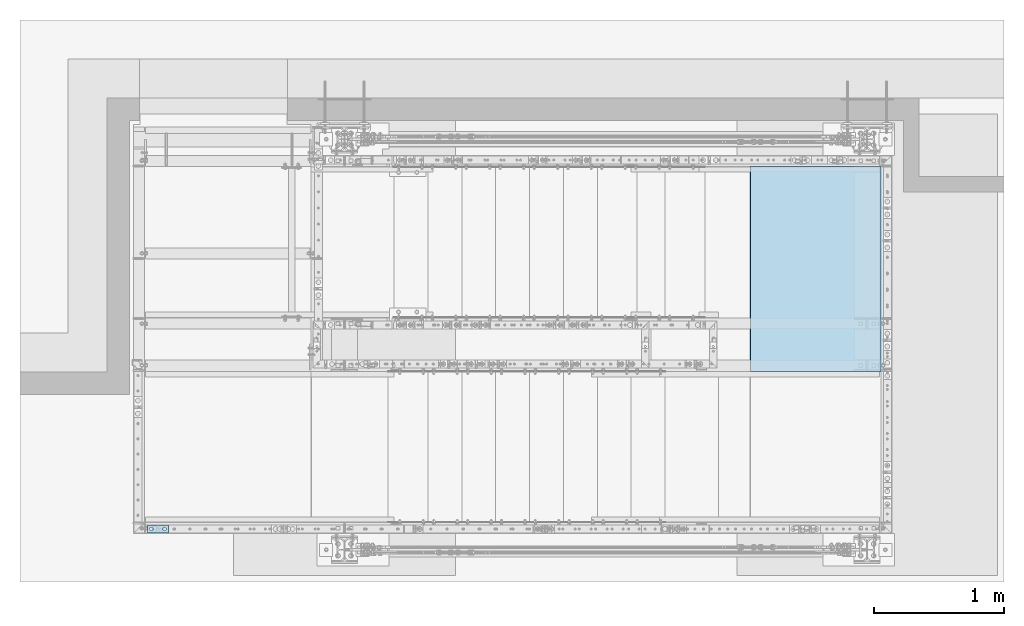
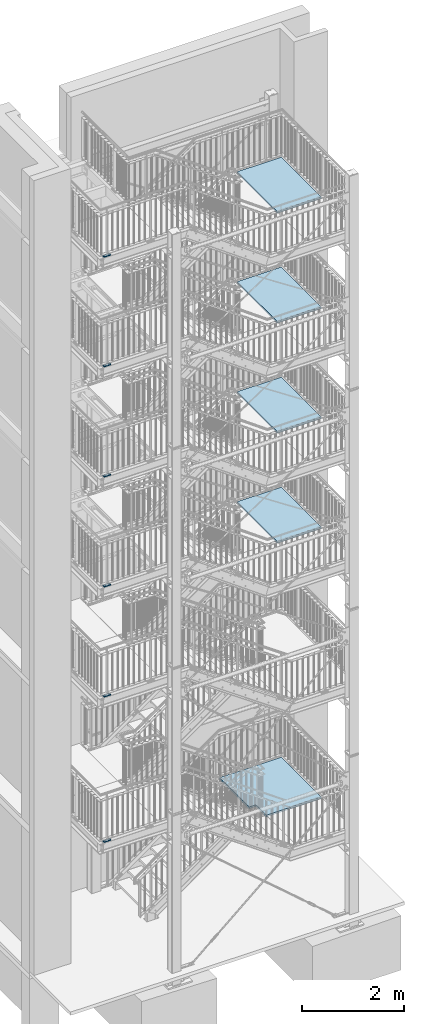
# One storey, part 144 of 821: 11 plates, 13 openings.
"""IFC2X3 building model written with IfcOpenShell, lengths in millimetres."""

from ifc_helpers import new_model, entity, si_unit, converted_unit, point, frame, frame_2d, origin, origin_with_axes, place, context, project, spatial, polyline, circle_curve, line_curve, trimmed, segment, composite_curve, outline, extrude, material, layer, layer_set, element, save


model = new_model("IFC2X3")

# Units and contexts
model_context = context("Model", 3, precision=1e-09, world=origin_with_axes())
ifc_project = project(units=[si_unit("LENGTHUNIT", "METRE", prefix="MILLI"), si_unit("AREAUNIT", "SQUARE_METRE"), si_unit("VOLUMEUNIT", "CUBIC_METRE"), converted_unit("PLANEANGLEUNIT", "DEGREE", entity("IfcPlaneAngleMeasure", 0.01745329), si_unit("PLANEANGLEUNIT", "RADIAN"), dimensions=[0, 0, 0, 0, 0, 0, 0])], contexts=[model_context])

# Site, building, storey
site_placement = place(None, origin_with_axes())
site = spatial("IfcSite", under=ifc_project, at=site_placement, Name="Cnopf'sche Kinderklinik", CompositionType="ELEMENT")
building_placement = place(site_placement, origin_with_axes())
building = spatial("IfcBuilding", under=site, at=building_placement, Name="Struktur 1", CompositionType="ELEMENT")
storey_placement = place(building_placement, origin_with_axes())
storey = spatial("IfcBuildingStorey", under=building, at=storey_placement, Name="Default Storey", CompositionType="ELEMENT", Elevation=0.0)

# Plate, openings
ifc_material = material(Name="S235JR")
ifc_layer_1 = layer(ifc_material, 20.0)
ifc_layer_set_1 = layer_set([ifc_layer_1], Name="S235JR")
plate_1_placement = place(None, frame((3344.788520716, 4496.736971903, 3847.0), z_axis=(0.0, 0.0, 1.0), x_axis=(1.0, 0.0, 0.0)))
plate_1 = element("IfcPlate", 1, at=plate_1_placement, inside=storey, material=ifc_layer_set_1, Name="Plate#512", ObjectType="Plate#512", context=model_context, shape_type="SweptSolid", body=[
    extrude(outline(polyline([(0.0, 0.0), (160.0, 0.0), (160.0, 60.0), (0.0, 60.0), (0.0, 0.0)])), origin_with_axes(), (0.0, 0.0, 1.0), 20.0),
])
opening_1_placement = place(plate_1_placement, frame((38.0, 37.001, 20.5), z_axis=(0.0, 0.0, 1.0), x_axis=(-1.0, 0.0, 0.0)))
element("IfcOpeningElement", 2, at=opening_1_placement, cuts=plate_1, ObjectType="Opening", context=model_context, shape_type="SweptSolid", body=[
    extrude(outline(composite_curve([segment(trimmed(line_curve((0.0, 0.0), (1.0, 0.0), 16.0), [point((0.0, 0.0))], [point((16.0, 0.0))], True, "CARTESIAN"), True, "CONTINUOUS"), segment(trimmed(circle_curve(frame_2d((16.0, 7.001), x_axis=(1.0, 0.0)), 7.001), [point((16.0, 0.0))], [point((16.0, 14.002))], True, "CARTESIAN"), True, "CONTINUOUS"), segment(trimmed(line_curve((16.0, 14.002), (-1.0, 0.0), 16.0), [point((16.0, 14.002))], [point((0.0, 14.002))], True, "CARTESIAN"), True, "CONTINUOUS"), segment(trimmed(circle_curve(frame_2d((0.0, 7.001), x_axis=(1.0, 0.0)), 7.001), [point((0.0, 14.002))], [point((0.0, 0.0))], True, "CARTESIAN"), True, "CONTINUOUS")], self_intersect=False)), origin(), (0.0, 0.0, -1.0), 21.0),
])
opening_2_placement = place(plate_1_placement, frame((138.0, 37.001, 20.5), z_axis=(0.0, 0.0, 1.0), x_axis=(-1.0, 0.0, 0.0)))
element("IfcOpeningElement", 3, at=opening_2_placement, cuts=plate_1, ObjectType="Opening", context=model_context, shape_type="SweptSolid", body=[
    extrude(outline(composite_curve([segment(trimmed(line_curve((0.0, 0.0), (1.0, 0.0), 16.0), [point((0.0, 0.0))], [point((16.0, 0.0))], True, "CARTESIAN"), True, "CONTINUOUS"), segment(trimmed(circle_curve(frame_2d((16.0, 7.001), x_axis=(1.0, 0.0)), 7.001), [point((16.0, 0.0))], [point((16.0, 14.002))], True, "CARTESIAN"), True, "CONTINUOUS"), segment(trimmed(line_curve((16.0, 14.002), (-1.0, 0.0), 16.0), [point((16.0, 14.002))], [point((0.0, 14.002))], True, "CARTESIAN"), True, "CONTINUOUS"), segment(trimmed(circle_curve(frame_2d((0.0, 7.001), x_axis=(1.0, 0.0)), 7.001), [point((0.0, 14.002))], [point((0.0, 0.0))], True, "CARTESIAN"), True, "CONTINUOUS")], self_intersect=False)), origin(), (0.0, 0.0, -1.0), 21.0),
])

plate_2_placement = place(None, frame((3344.79154585, 4496.736971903, 7320.0), z_axis=(0.0, 0.0, 1.0), x_axis=(1.0, 0.0, 0.0)))
plate_2 = element("IfcPlate", 4, at=plate_2_placement, inside=storey, material=ifc_layer_set_1, Name="Plate#513", ObjectType="Plate#513", context=model_context, shape_type="SweptSolid", body=[
    extrude(outline(polyline([(0.0, 0.0), (160.0, 0.0), (160.0, 60.0), (0.0, 60.0), (0.0, 0.0)])), origin_with_axes(), (0.0, 0.0, 1.0), 20.0),
])
opening_3_placement = place(plate_2_placement, frame((38.0, 37.001, 20.5), z_axis=(0.0, 0.0, 1.0), x_axis=(-1.0, 0.0, 0.0)))
element("IfcOpeningElement", 5, at=opening_3_placement, cuts=plate_2, ObjectType="Opening", context=model_context, shape_type="SweptSolid", body=[
    extrude(outline(composite_curve([segment(trimmed(line_curve((0.0, 0.0), (1.0, 0.0), 16.0), [point((0.0, 0.0))], [point((16.0, 0.0))], True, "CARTESIAN"), True, "CONTINUOUS"), segment(trimmed(circle_curve(frame_2d((16.0, 7.001), x_axis=(1.0, 0.0)), 7.001), [point((16.0, 0.0))], [point((16.0, 14.002))], True, "CARTESIAN"), True, "CONTINUOUS"), segment(trimmed(line_curve((16.0, 14.002), (-1.0, 0.0), 16.0), [point((16.0, 14.002))], [point((0.0, 14.002))], True, "CARTESIAN"), True, "CONTINUOUS"), segment(trimmed(circle_curve(frame_2d((0.0, 7.001), x_axis=(1.0, 0.0)), 7.001), [point((0.0, 14.002))], [point((0.0, 0.0))], True, "CARTESIAN"), True, "CONTINUOUS")], self_intersect=False)), origin(), (0.0, 0.0, -1.0), 21.0),
])
opening_4_placement = place(plate_2_placement, frame((138.0, 37.001, 20.5), z_axis=(0.0, 0.0, 1.0), x_axis=(-1.0, 0.0, 0.0)))
element("IfcOpeningElement", 6, at=opening_4_placement, cuts=plate_2, ObjectType="Opening", context=model_context, shape_type="SweptSolid", body=[
    extrude(outline(composite_curve([segment(trimmed(line_curve((0.0, 0.0), (1.0, 0.0), 16.0), [point((0.0, 0.0))], [point((16.0, 0.0))], True, "CARTESIAN"), True, "CONTINUOUS"), segment(trimmed(circle_curve(frame_2d((16.0, 7.001), x_axis=(1.0, 0.0)), 7.001), [point((16.0, 0.0))], [point((16.0, 14.002))], True, "CARTESIAN"), True, "CONTINUOUS"), segment(trimmed(line_curve((16.0, 14.002), (-1.0, 0.0), 16.0), [point((16.0, 14.002))], [point((0.0, 14.002))], True, "CARTESIAN"), True, "CONTINUOUS"), segment(trimmed(circle_curve(frame_2d((0.0, 7.001), x_axis=(1.0, 0.0)), 7.001), [point((0.0, 14.002))], [point((0.0, 0.0))], True, "CARTESIAN"), True, "CONTINUOUS")], self_intersect=False)), origin(), (0.0, 0.0, -1.0), 21.0),
])

plate_3_placement = place(None, frame((3344.79154585, 4496.736971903, 9952.0), z_axis=(0.0, 0.0, 1.0), x_axis=(1.0, 0.0, 0.0)))
plate_3 = element("IfcPlate", 7, at=plate_3_placement, inside=storey, material=ifc_layer_set_1, Name="Plate#513", ObjectType="Plate#513", context=model_context, shape_type="SweptSolid", body=[
    extrude(outline(polyline([(0.0, 0.0), (160.0, 0.0), (160.0, 60.0), (0.0, 60.0), (0.0, 0.0)])), origin_with_axes(), (0.0, 0.0, 1.0), 20.0),
])
opening_5_placement = place(plate_3_placement, frame((38.0, 37.001, 20.5), z_axis=(0.0, 0.0, 1.0), x_axis=(-1.0, 0.0, 0.0)))
element("IfcOpeningElement", 8, at=opening_5_placement, cuts=plate_3, ObjectType="Opening", context=model_context, shape_type="SweptSolid", body=[
    extrude(outline(composite_curve([segment(trimmed(line_curve((0.0, 0.0), (1.0, 0.0), 16.0), [point((0.0, 0.0))], [point((16.0, 0.0))], True, "CARTESIAN"), True, "CONTINUOUS"), segment(trimmed(circle_curve(frame_2d((16.0, 7.001), x_axis=(1.0, 0.0)), 7.001), [point((16.0, 0.0))], [point((16.0, 14.002))], True, "CARTESIAN"), True, "CONTINUOUS"), segment(trimmed(line_curve((16.0, 14.002), (-1.0, 0.0), 16.0), [point((16.0, 14.002))], [point((0.0, 14.002))], True, "CARTESIAN"), True, "CONTINUOUS"), segment(trimmed(circle_curve(frame_2d((0.0, 7.001), x_axis=(1.0, 0.0)), 7.001), [point((0.0, 14.002))], [point((0.0, 0.0))], True, "CARTESIAN"), True, "CONTINUOUS")], self_intersect=False)), origin(), (0.0, 0.0, -1.0), 21.0),
])
opening_6_placement = place(plate_3_placement, frame((138.0, 37.001, 20.5), z_axis=(0.0, 0.0, 1.0), x_axis=(-1.0, 0.0, 0.0)))
element("IfcOpeningElement", 9, at=opening_6_placement, cuts=plate_3, ObjectType="Opening", context=model_context, shape_type="SweptSolid", body=[
    extrude(outline(composite_curve([segment(trimmed(line_curve((0.0, 0.0), (1.0, 0.0), 16.0), [point((0.0, 0.0))], [point((16.0, 0.0))], True, "CARTESIAN"), True, "CONTINUOUS"), segment(trimmed(circle_curve(frame_2d((16.0, 7.001), x_axis=(1.0, 0.0)), 7.001), [point((16.0, 0.0))], [point((16.0, 14.002))], True, "CARTESIAN"), True, "CONTINUOUS"), segment(trimmed(line_curve((16.0, 14.002), (-1.0, 0.0), 16.0), [point((16.0, 14.002))], [point((0.0, 14.002))], True, "CARTESIAN"), True, "CONTINUOUS"), segment(trimmed(circle_curve(frame_2d((0.0, 7.001), x_axis=(1.0, 0.0)), 7.001), [point((0.0, 14.002))], [point((0.0, 0.0))], True, "CARTESIAN"), True, "CONTINUOUS")], self_intersect=False)), origin(), (0.0, 0.0, -1.0), 21.0),
])

plate_4_placement = place(None, frame((3344.79154585, 4496.736971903, 12579.0), z_axis=(0.0, 0.0, 1.0), x_axis=(1.0, 0.0, 0.0)))
plate_4 = element("IfcPlate", 10, at=plate_4_placement, inside=storey, material=ifc_layer_set_1, Name="Plate#513", ObjectType="Plate#513", context=model_context, shape_type="SweptSolid", body=[
    extrude(outline(polyline([(0.0, 0.0), (160.0, 0.0), (160.0, 60.0), (0.0, 60.0), (0.0, 0.0)])), origin_with_axes(), (0.0, 0.0, 1.0), 20.0),
])
opening_7_placement = place(plate_4_placement, frame((38.0, 37.001, 20.5), z_axis=(0.0, 0.0, 1.0), x_axis=(-1.0, 0.0, 0.0)))
element("IfcOpeningElement", 11, at=opening_7_placement, cuts=plate_4, ObjectType="Opening", context=model_context, shape_type="SweptSolid", body=[
    extrude(outline(composite_curve([segment(trimmed(line_curve((0.0, 0.0), (1.0, 0.0), 16.0), [point((0.0, 0.0))], [point((16.0, 0.0))], True, "CARTESIAN"), True, "CONTINUOUS"), segment(trimmed(circle_curve(frame_2d((16.0, 7.001), x_axis=(1.0, 0.0)), 7.001), [point((16.0, 0.0))], [point((16.0, 14.002))], True, "CARTESIAN"), True, "CONTINUOUS"), segment(trimmed(line_curve((16.0, 14.002), (-1.0, 0.0), 16.0), [point((16.0, 14.002))], [point((0.0, 14.002))], True, "CARTESIAN"), True, "CONTINUOUS"), segment(trimmed(circle_curve(frame_2d((0.0, 7.001), x_axis=(1.0, 0.0)), 7.001), [point((0.0, 14.002))], [point((0.0, 0.0))], True, "CARTESIAN"), True, "CONTINUOUS")], self_intersect=False)), origin(), (0.0, 0.0, -1.0), 21.0),
])
opening_8_placement = place(plate_4_placement, frame((138.0, 37.001, 20.5), z_axis=(0.0, 0.0, 1.0), x_axis=(-1.0, 0.0, 0.0)))
element("IfcOpeningElement", 12, at=opening_8_placement, cuts=plate_4, ObjectType="Opening", context=model_context, shape_type="SweptSolid", body=[
    extrude(outline(composite_curve([segment(trimmed(line_curve((0.0, 0.0), (1.0, 0.0), 16.0), [point((0.0, 0.0))], [point((16.0, 0.0))], True, "CARTESIAN"), True, "CONTINUOUS"), segment(trimmed(circle_curve(frame_2d((16.0, 7.001), x_axis=(1.0, 0.0)), 7.001), [point((16.0, 0.0))], [point((16.0, 14.002))], True, "CARTESIAN"), True, "CONTINUOUS"), segment(trimmed(line_curve((16.0, 14.002), (-1.0, 0.0), 16.0), [point((16.0, 14.002))], [point((0.0, 14.002))], True, "CARTESIAN"), True, "CONTINUOUS"), segment(trimmed(circle_curve(frame_2d((0.0, 7.001), x_axis=(1.0, 0.0)), 7.001), [point((0.0, 14.002))], [point((0.0, 0.0))], True, "CARTESIAN"), True, "CONTINUOUS")], self_intersect=False)), origin(), (0.0, 0.0, -1.0), 21.0),
])

plate_5_placement = place(None, frame((3344.79154585, 4496.736971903, 15214.0), z_axis=(0.0, 0.0, 1.0), x_axis=(1.0, 0.0, 0.0)))
plate_5 = element("IfcPlate", 13, at=plate_5_placement, inside=storey, material=ifc_layer_set_1, Name="Plate#513", ObjectType="Plate#513", context=model_context, shape_type="SweptSolid", body=[
    extrude(outline(polyline([(0.0, 0.0), (160.0, 0.0), (160.0, 60.0), (0.0, 60.0), (0.0, 0.0)])), origin_with_axes(), (0.0, 0.0, 1.0), 20.0),
])
opening_9_placement = place(plate_5_placement, frame((38.0, 37.001, 20.5), z_axis=(0.0, 0.0, 1.0), x_axis=(-1.0, 0.0, 0.0)))
element("IfcOpeningElement", 14, at=opening_9_placement, cuts=plate_5, ObjectType="Opening", context=model_context, shape_type="SweptSolid", body=[
    extrude(outline(composite_curve([segment(trimmed(line_curve((0.0, 0.0), (1.0, 0.0), 16.0), [point((0.0, 0.0))], [point((16.0, 0.0))], True, "CARTESIAN"), True, "CONTINUOUS"), segment(trimmed(circle_curve(frame_2d((16.0, 7.001), x_axis=(1.0, 0.0)), 7.001), [point((16.0, 0.0))], [point((16.0, 14.002))], True, "CARTESIAN"), True, "CONTINUOUS"), segment(trimmed(line_curve((16.0, 14.002), (-1.0, 0.0), 16.0), [point((16.0, 14.002))], [point((0.0, 14.002))], True, "CARTESIAN"), True, "CONTINUOUS"), segment(trimmed(circle_curve(frame_2d((0.0, 7.001), x_axis=(1.0, 0.0)), 7.001), [point((0.0, 14.002))], [point((0.0, 0.0))], True, "CARTESIAN"), True, "CONTINUOUS")], self_intersect=False)), origin(), (0.0, 0.0, -1.0), 21.0),
])
opening_10_placement = place(plate_5_placement, frame((138.0, 37.001, 20.5), z_axis=(0.0, 0.0, 1.0), x_axis=(-1.0, 0.0, 0.0)))
element("IfcOpeningElement", 15, at=opening_10_placement, cuts=plate_5, ObjectType="Opening", context=model_context, shape_type="SweptSolid", body=[
    extrude(outline(composite_curve([segment(trimmed(line_curve((0.0, 0.0), (1.0, 0.0), 16.0), [point((0.0, 0.0))], [point((16.0, 0.0))], True, "CARTESIAN"), True, "CONTINUOUS"), segment(trimmed(circle_curve(frame_2d((16.0, 7.001), x_axis=(1.0, 0.0)), 7.001), [point((16.0, 0.0))], [point((16.0, 14.002))], True, "CARTESIAN"), True, "CONTINUOUS"), segment(trimmed(line_curve((16.0, 14.002), (-1.0, 0.0), 16.0), [point((16.0, 14.002))], [point((0.0, 14.002))], True, "CARTESIAN"), True, "CONTINUOUS"), segment(trimmed(circle_curve(frame_2d((0.0, 7.001), x_axis=(1.0, 0.0)), 7.001), [point((0.0, 14.002))], [point((0.0, 0.0))], True, "CARTESIAN"), True, "CONTINUOUS")], self_intersect=False)), origin(), (0.0, 0.0, -1.0), 21.0),
])

# Plate, opening
ifc_layer_2 = layer(ifc_material, 40.0)
ifc_layer_set_2 = layer_set([ifc_layer_2], Name="S235JR")
plate_6_placement = place(None, frame((7576.713402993, 6146.736971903, 2181.0526312), z_axis=(0.0, 0.0, 1.0), x_axis=(1.0, 0.0, 0.0)))
plate_6 = element("IfcPlate", 16, at=plate_6_placement, inside=storey, material=ifc_layer_set_2, Name="TopCoverGrate", ObjectType="TopCoverGrate", context=model_context, shape_type="SweptSolid", body=[
    extrude(outline(polyline([(0.0, -410.0), (1395.0, -410.0), (1395.0, 1160.0), (0.0, 1160.0), (0.0, -410.0)])), origin_with_axes(), (0.0, 0.0, 1.0), 40.0),
])
opening_11_placement = place(plate_6_placement, frame((0.0, 0.0, -0.1), z_axis=(0.0, 0.0, 1.0), x_axis=(1.0, 0.0, 0.0)))
element("IfcOpeningElement", 17, at=opening_11_placement, cuts=plate_6, ObjectType="Opening", context=model_context, shape_type="SweptSolid", body=[
    extrude(outline(polyline([(-116.977203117, -541.699703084), (150.001, -541.699703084), (150.001, 0.001), (-116.977203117, 0.001), (-116.977203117, -541.699703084)])), origin(), (0.0, 0.0, 1.0), 40.2),
])

# Plate, openings
plate_7_placement = place(None, frame((3344.79154585, 4496.736971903, 17834.0), z_axis=(0.0, 0.0, 1.0), x_axis=(1.0, 0.0, 0.0)))
plate_7 = element("IfcPlate", 18, at=plate_7_placement, inside=storey, material=ifc_layer_set_1, Name="Plate#513", ObjectType="Plate#513", context=model_context, shape_type="SweptSolid", body=[
    extrude(outline(polyline([(0.0, 0.0), (160.0, 0.0), (160.0, 60.0), (0.0, 60.0), (0.0, 0.0)])), origin_with_axes(), (0.0, 0.0, 1.0), 20.0),
])
opening_12_placement = place(plate_7_placement, frame((38.0, 37.001, 20.5), z_axis=(0.0, 0.0, 1.0), x_axis=(-1.0, 0.0, 0.0)))
element("IfcOpeningElement", 19, at=opening_12_placement, cuts=plate_7, ObjectType="Opening", context=model_context, shape_type="SweptSolid", body=[
    extrude(outline(composite_curve([segment(trimmed(line_curve((0.0, 0.0), (1.0, 0.0), 16.0), [point((0.0, 0.0))], [point((16.0, 0.0))], True, "CARTESIAN"), True, "CONTINUOUS"), segment(trimmed(circle_curve(frame_2d((16.0, 7.001), x_axis=(1.0, 0.0)), 7.001), [point((16.0, 0.0))], [point((16.0, 14.002))], True, "CARTESIAN"), True, "CONTINUOUS"), segment(trimmed(line_curve((16.0, 14.002), (-1.0, 0.0), 16.0), [point((16.0, 14.002))], [point((0.0, 14.002))], True, "CARTESIAN"), True, "CONTINUOUS"), segment(trimmed(circle_curve(frame_2d((0.0, 7.001), x_axis=(1.0, 0.0)), 7.001), [point((0.0, 14.002))], [point((0.0, 0.0))], True, "CARTESIAN"), True, "CONTINUOUS")], self_intersect=False)), origin(), (0.0, 0.0, -1.0), 21.0),
])
opening_13_placement = place(plate_7_placement, frame((138.0, 37.001, 20.5), z_axis=(0.0, 0.0, 1.0), x_axis=(-1.0, 0.0, 0.0)))
element("IfcOpeningElement", 20, at=opening_13_placement, cuts=plate_7, ObjectType="Opening", context=model_context, shape_type="SweptSolid", body=[
    extrude(outline(composite_curve([segment(trimmed(line_curve((0.0, 0.0), (1.0, 0.0), 16.0), [point((0.0, 0.0))], [point((16.0, 0.0))], True, "CARTESIAN"), True, "CONTINUOUS"), segment(trimmed(circle_curve(frame_2d((16.0, 7.001), x_axis=(1.0, 0.0)), 7.001), [point((16.0, 0.0))], [point((16.0, 14.002))], True, "CARTESIAN"), True, "CONTINUOUS"), segment(trimmed(line_curve((16.0, 14.002), (-1.0, 0.0), 16.0), [point((16.0, 14.002))], [point((0.0, 14.002))], True, "CARTESIAN"), True, "CONTINUOUS"), segment(trimmed(circle_curve(frame_2d((0.0, 7.001), x_axis=(1.0, 0.0)), 7.001), [point((0.0, 14.002))], [point((0.0, 0.0))], True, "CARTESIAN"), True, "CONTINUOUS")], self_intersect=False)), origin(), (0.0, 0.0, -1.0), 21.0),
])

# Plates
for number, where, z_axis, x_axis, name in (
    (21, (7056.713402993, 6146.736971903, 8636.0), (0.0, 0.0, 1.0), (1.0, 0.0, 0.0), "TopCoverGrate"),
    (22, (7056.713402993, 6146.736971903, 11265.5000003), (0.0, 0.0, 1.0), (1.0, 0.0, 0.0), "TopCoverGrate"),
    (23, (7056.713402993, 6146.736971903, 13896.5000001), (0.0, 0.0, 1.0), (1.0, 0.0, 0.0), "TopCoverGrate"),
    (24, (7056.713402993, 6146.736971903, 16524.0000003), (0.0, 0.0, 1.0), (1.0, 0.0, 0.0), "TopCoverGrate"),
):
    element("IfcPlate", number, at=place(None, frame(where, z_axis=z_axis, x_axis=x_axis)), inside=storey, material=ifc_layer_set_2, Name=name, ObjectType="TopCoverGrate", context=model_context, shape_type="SweptSolid", body=[
        extrude(outline(polyline([(915.0, 1160.0), (915.0, -410.0), (1915.0, -410.0), (1915.0, 1160.0), (915.0, 1160.0)])), origin_with_axes(), (0.0, 0.0, 1.0), 40.0),
    ])

save(model, "model.ifc")
